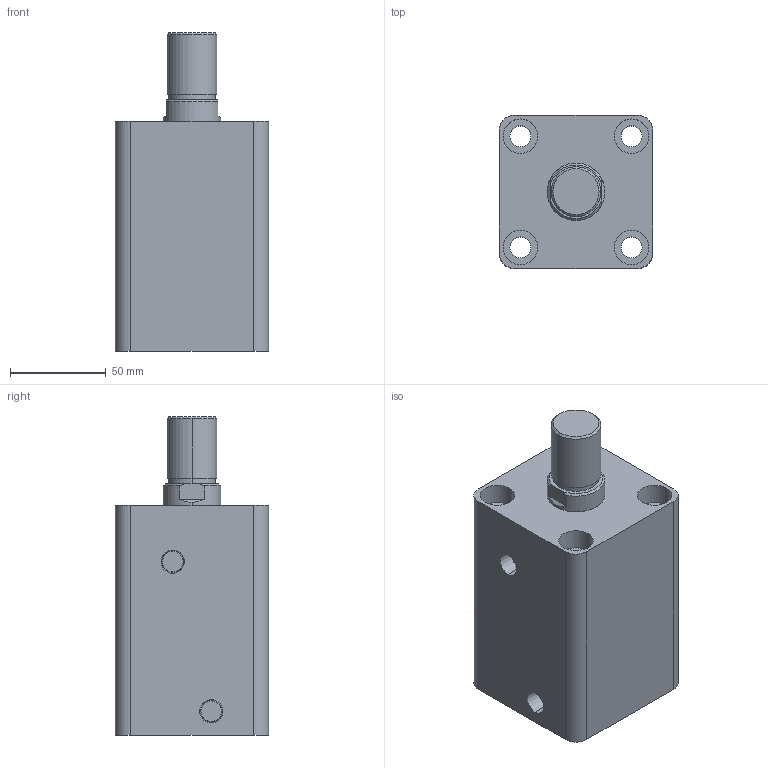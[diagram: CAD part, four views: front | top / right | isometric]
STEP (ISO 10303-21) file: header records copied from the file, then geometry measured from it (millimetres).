
FILE_DESCRIPTION (( 'STEP AP203' ), '1' );
FILE_NAME ('HTB-SD50-60W.STEP', '2019-10-07T07:11:06', ( '微软用户' ), ( '微软中国' ), 'SwSTEP 2.0', 'SolidWorks 2012', '' );
FILE_SCHEMA (( 'CONFIG_CONTROL_DESIGN' ));
Length unit declared in the file: millimetre
Products named in the file (3): HTB-SD50-60W; HTB-SD50-60W活塞杆; HTB-SD50-60掛极
Assembly tree (2 placements, depth 2):
  HTB-SD50-60W
    HTB-SD50-60掛极
    HTB-SD50-60W活塞杆
Bounding box: 80 x 80 x 166 mm (x, y, z)
Volume: 649767.6 mm3; surface area: 105262.7 mm2
Topology: 2 solids, 2 shells, 87 faces, 190 edges, 124 vertices
Faces by surface type: cylinder 44, plane 29, cone 8, torus 6
Entity records: 2761 total; most frequent: DIRECTION 478, CARTESIAN_POINT 434, ORIENTED_EDGE 380, AXIS2_PLACEMENT_3D 204, EDGE_CURVE 190, VERTEX_POINT 124, EDGE_LOOP 112, CIRCLE 112
